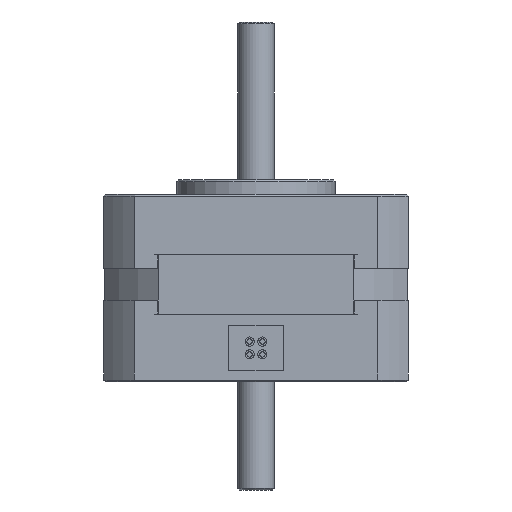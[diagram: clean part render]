
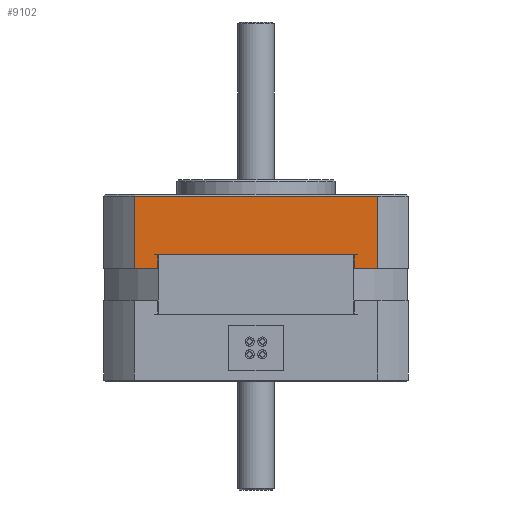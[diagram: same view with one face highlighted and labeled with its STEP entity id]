
A CAD part, front view. The second image highlights one B-rep face of the part: STEP entity #9102.
In plain terms, the highlighted planar face has unit normal (0, -1, 0).
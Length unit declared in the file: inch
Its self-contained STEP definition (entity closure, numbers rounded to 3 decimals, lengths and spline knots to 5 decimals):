
#5102 = CARTESIAN_POINT ( 'NONE',  ( 0.53503, -0.83, -0.33 ) ) ;
#5770 = DIRECTION ( 'NONE',  ( -1., 0., 0. ) ) ;
#5771 = VECTOR ( 'NONE', #5770, 39.37008 ) ;
#5772 = CARTESIAN_POINT ( 'NONE',  ( 0.53503, -0.83, -0.33 ) ) ;
#5773 = LINE ( 'NONE', #5772, #5771 ) ;
#6028 = CARTESIAN_POINT ( 'NONE',  ( -0.53503, -0.83, -0.33 ) ) ;
#6046 = CARTESIAN_POINT ( 'NONE',  ( 0.53503, -0.83, -0.405 ) ) ;
#6073 = FACE_OUTER_BOUND ( 'NONE', #9264, .T. ) ;
#6144 = PLANE ( 'NONE',  #6191 ) ;
#6191 = AXIS2_PLACEMENT_3D ( 'NONE', #6192, #6256, #6255 ) ;
#6192 = CARTESIAN_POINT ( 'NONE',  ( -0.66413, -0.83, -0.405 ) ) ;
#6250 = DIRECTION ( 'NONE',  ( 0., 0., 1. ) ) ;
#6251 = VECTOR ( 'NONE', #6250, 39.37008 ) ;
#6252 = CARTESIAN_POINT ( 'NONE',  ( 0.66413, -0.83, -0.405 ) ) ;
#6253 = LINE ( 'NONE', #6252, #6251 ) ;
#6255 = DIRECTION ( 'NONE',  ( 0., 0., -1. ) ) ;
#6256 = DIRECTION ( 'NONE',  ( 0., -1., 0. ) ) ;
#6405 = CARTESIAN_POINT ( 'NONE',  ( -0.66413, -0.83, -0.405 ) ) ;
#6413 = CARTESIAN_POINT ( 'NONE',  ( -0.66413, -0.83, -0.01 ) ) ;
#6425 = CARTESIAN_POINT ( 'NONE',  ( -0.66413, -0.83, -0.405 ) ) ;
#6454 = CARTESIAN_POINT ( 'NONE',  ( 0.53503, -0.83, -0.33 ) ) ;
#6455 = LINE ( 'NONE', #6454, #6476 ) ;
#6475 = DIRECTION ( 'NONE',  ( 0., 0., -1. ) ) ;
#6476 = VECTOR ( 'NONE', #6475, 39.37008 ) ;
#6491 = LINE ( 'NONE', #6501, #6526 ) ;
#6499 = DIRECTION ( 'NONE',  ( 1., 0., 0. ) ) ;
#6500 = DIRECTION ( 'NONE',  ( -1., 0., 0. ) ) ;
#6501 = CARTESIAN_POINT ( 'NONE',  ( -0.66413, -0.83, -0.01 ) ) ;
#6510 = DIRECTION ( 'NONE',  ( 1., 0., 0. ) ) ;
#6511 = VECTOR ( 'NONE', #6510, 39.37008 ) ;
#6512 = CARTESIAN_POINT ( 'NONE',  ( -0.66413, -0.83, -0.405 ) ) ;
#6513 = VECTOR ( 'NONE', #6499, 39.37008 ) ;
#6526 = VECTOR ( 'NONE', #6500, 39.37008 ) ;
#6527 = LINE ( 'NONE', #6425, #6513 ) ;
#6535 = LINE ( 'NONE', #6512, #6511 ) ;
#6547 = LINE ( 'NONE', #6702, #6701 ) ;
#6652 = CARTESIAN_POINT ( 'NONE',  ( -0.53503, -0.83, -0.405 ) ) ;
#6688 = CARTESIAN_POINT ( 'NONE',  ( 0.66413, -0.83, -0.01 ) ) ;
#6700 = DIRECTION ( 'NONE',  ( 0., 0., 1. ) ) ;
#6701 = VECTOR ( 'NONE', #6700, 39.37008 ) ;
#6702 = CARTESIAN_POINT ( 'NONE',  ( -0.66413, -0.83, -0.405 ) ) ;
#6759 = CARTESIAN_POINT ( 'NONE',  ( 0.66413, -0.83, -0.405 ) ) ;
#7012 = DIRECTION ( 'NONE',  ( 0., 0., -1. ) ) ;
#7013 = VECTOR ( 'NONE', #7012, 39.37008 ) ;
#7022 = CARTESIAN_POINT ( 'NONE',  ( -0.53503, -0.83, -0.33 ) ) ;
#7023 = LINE ( 'NONE', #7022, #7013 ) ;
#8864 = VERTEX_POINT ( 'NONE', #5102 ) ;
#8958 = EDGE_CURVE ( 'NONE', #8864, #9061, #5773, .T. ) ;
#9061 = VERTEX_POINT ( 'NONE', #6028 ) ;
#9100 = VERTEX_POINT ( 'NONE', #6046 ) ;
#9102 = ADVANCED_FACE ( 'NONE', ( #6073 ), #6144, .T. ) ;
#9108 = EDGE_CURVE ( 'NONE', #9317, #9274, #6253, .T. ) ;
#9109 = ORIENTED_EDGE ( 'NONE', *, *, #8958, .F. ) ;
#9177 = EDGE_CURVE ( 'NONE', #9178, #9223, #6527, .T. ) ;
#9178 = VERTEX_POINT ( 'NONE', #6405 ) ;
#9179 = ORIENTED_EDGE ( 'NONE', *, *, #9207, .T. ) ;
#9184 = EDGE_CURVE ( 'NONE', #9100, #9317, #6535, .T. ) ;
#9189 = EDGE_CURVE ( 'NONE', #9274, #9191, #6491, .T. ) ;
#9190 = ORIENTED_EDGE ( 'NONE', *, *, #9108, .T. ) ;
#9191 = VERTEX_POINT ( 'NONE', #6413 ) ;
#9207 = EDGE_CURVE ( 'NONE', #8864, #9100, #6455, .T. ) ;
#9223 = VERTEX_POINT ( 'NONE', #6652 ) ;
#9264 = EDGE_LOOP ( 'NONE', ( #9329, #9109, #9179, #9315, #9190, #9319, #9330, #9320 ) ) ;
#9274 = VERTEX_POINT ( 'NONE', #6688 ) ;
#9283 = EDGE_CURVE ( 'NONE', #9178, #9191, #6547, .T. ) ;
#9315 = ORIENTED_EDGE ( 'NONE', *, *, #9184, .T. ) ;
#9317 = VERTEX_POINT ( 'NONE', #6759 ) ;
#9319 = ORIENTED_EDGE ( 'NONE', *, *, #9189, .T. ) ;
#9320 = ORIENTED_EDGE ( 'NONE', *, *, #9177, .T. ) ;
#9329 = ORIENTED_EDGE ( 'NONE', *, *, #9353, .F. ) ;
#9330 = ORIENTED_EDGE ( 'NONE', *, *, #9283, .F. ) ;
#9353 = EDGE_CURVE ( 'NONE', #9061, #9223, #7023, .T. ) ;
